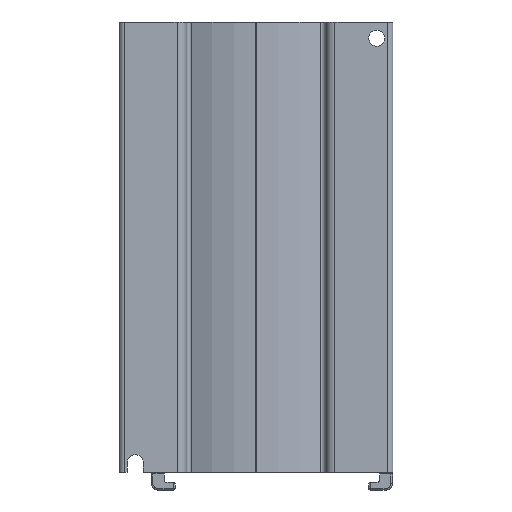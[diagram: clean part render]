
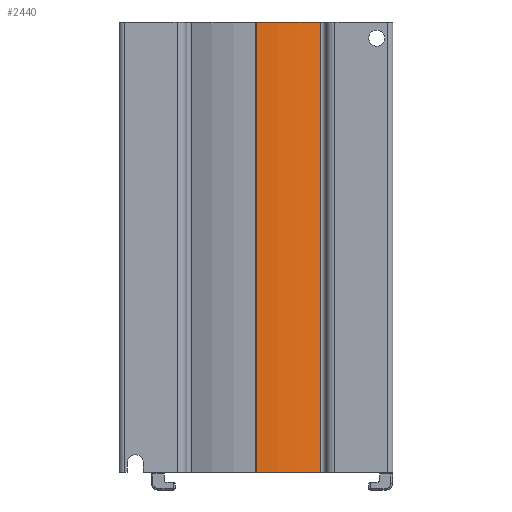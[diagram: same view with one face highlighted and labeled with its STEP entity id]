
A CAD part, front view. The second image highlights one B-rep face of the part: STEP entity #2440.
In plain terms, the highlighted cylindrical face has radius 46.4 mm (diameter 92.8 mm), a partial arc.
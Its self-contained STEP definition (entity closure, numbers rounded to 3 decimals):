
#283=CARTESIAN_POINT('',(0.,-0.468,140.));
#284=DIRECTION('',(0.,0.,-1.));
#285=DIRECTION('',(0.432,-0.902,0.));
#286=AXIS2_PLACEMENT_3D('',#283,#284,#285);
#329=CARTESIAN_POINT('',(0.,-0.468,0.));
#330=DIRECTION('',(0.,0.,1.));
#331=DIRECTION('',(0.,-1.,0.));
#332=AXIS2_PLACEMENT_3D('',#329,#330,#331);
#594=DIRECTION('',(0.,0.,1.));
#595=VECTOR('',#594,140.);
#596=CARTESIAN_POINT('',(0.,-46.868,0.));
#597=LINE('',#596,#595);
#598=DIRECTION('',(0.,0.,-1.));
#599=VECTOR('',#598,140.);
#600=CARTESIAN_POINT('',(20.068,-42.304,140.));
#601=LINE('',#600,#599);
#1747=CARTESIAN_POINT('',(20.068,-42.304,140.));
#1748=VERTEX_POINT('',#1747);
#1749=CARTESIAN_POINT('',(0.,-46.868,140.));
#1750=VERTEX_POINT('',#1749);
#1769=CARTESIAN_POINT('',(0.,-46.868,0.));
#1770=VERTEX_POINT('',#1769);
#1771=CARTESIAN_POINT('',(20.068,-42.304,0.));
#1772=VERTEX_POINT('',#1771);
#2428=CARTESIAN_POINT('',(0.,-0.468,140.));
#2429=DIRECTION('',(0.,0.,1.));
#2430=DIRECTION('',(1.,0.,0.));
#2431=AXIS2_PLACEMENT_3D('',#2428,#2429,#2430);
#2432=CYLINDRICAL_SURFACE('',#2431,46.4);
#2433=ORIENTED_EDGE('',*,*,#2422,.T.);
#2434=ORIENTED_EDGE('',*,*,#2207,.F.);
#2436=ORIENTED_EDGE('',*,*,#2435,.T.);
#2437=ORIENTED_EDGE('',*,*,#2251,.F.);
#2438=EDGE_LOOP('',(#2433,#2434,#2436,#2437));
#2439=FACE_OUTER_BOUND('',#2438,.F.);
#287=CIRCLE('',#286,46.4);
#333=CIRCLE('',#332,46.4);
#2207=EDGE_CURVE('',#1748,#1750,#287,.T.);
#2251=EDGE_CURVE('',#1770,#1772,#333,.T.);
#2422=EDGE_CURVE('',#1770,#1750,#597,.T.);
#2435=EDGE_CURVE('',#1748,#1772,#601,.T.);
#2440=ADVANCED_FACE('',(#2439),#2432,.T.);
